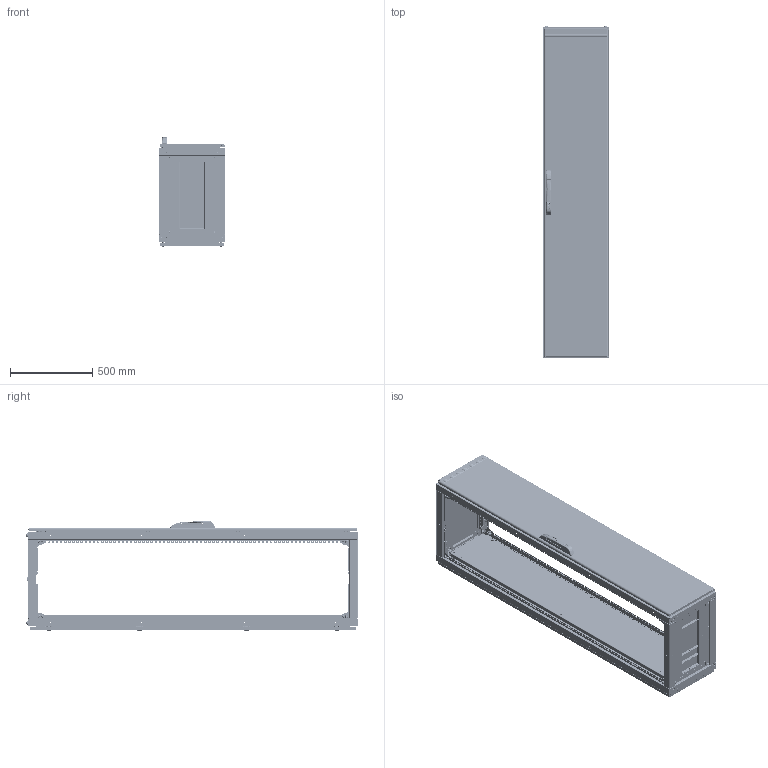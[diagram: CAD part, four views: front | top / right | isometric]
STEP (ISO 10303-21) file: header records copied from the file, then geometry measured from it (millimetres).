
FILE_DESCRIPTION (( 'STEP AP214' ), '1' );
FILE_NAME ('N200406S - 2000 H X 400 W X 600 D - NEO MODULAR.STEP', '2026-09-30T13:47:00', ( '' ), ( '' ), 'SwSTEP 2.0', 'SolidWorks 2025', '' );
FILE_SCHEMA (( 'AUTOMOTIVE_DESIGN' ));
Length unit declared in the file: millimetre
Products named in the file (99): Base sheet slide part_PP 12.0029 - 400; Teos-Neo MP Sol Braketi; TEOS-NEO MP Right Support Plastic Wedge; TEOS-NEO MP Right Bracket with pin_25mm; A910 3126 330; M8 KAFES SOMUN_m8; countersunk flat head cross recess screw_iso_ISO 7046-1 - M6 x 25 - Z --- 25C; pan cross head_ai0_CR-PHMS 0.19-32x0.625x0.625-N; Front Door Sheet - Neo_PP 16.0081 400x2000; YZE124TKK_1__1_1; N200406S - 2000 H X 400 W X 600 D - NEO MODULAR; kare rondelaVER3 NEO26-12; Body Cover; Teos-Neo MP Sağ Braketi; DİKEY PROFİL VER 1 ACIK PROFİLVER3 NEO26-12_PP 16.0014 H 2000; YZE068T__1_1; 4X8 POP PERÇİN_4X8; Top Cover Sheet_PP 16.0053 400X600 UST KAPAK; NEO Base Width Part_PP 16.0103 400 GENİŞLİK; Horızontal Frame with hole_400; Teos-Neo MP Durdurucu Destek; M6 Plastic Screwholder 2; lande plastic panel_1_1; TEOS-NEO MP Left Support Plastic Wedge; Tekpan Lock Handle_tekpan; pan head cross recess screw_iso121_ISO 7045 - M5 x 10 - Z - 10S; hex nut heavy_am_B18.2.4.6M - Heavy hex nut,  M12 x 1.75 --W-N; Front Slat_400; NEO Base depth Part_PP 16.0096 600; NEO Modular Rear Panel_400x2000; YP1315; 4X8 POP PERÇİN; Plastic Corner- Neo; NEO Mounting plate sled_PP 16.1238-600; YM 1472; TEOS-NEO MP Left Bracket with pin_25mm; derinlik merdivenliVER3 NEO26-12_PP 16.0017   600; NEO Modular Derinlik_600; M8 Kare Somun_m8; MSBR-7_1__1_1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
Assembly tree (262 placements, depth 5):
  N200406S - 2000 H X 400 W X 600 D - NEO MODULAR
    NEO Modular Frame Assembly_400x2000x600
      kasa 2015VER3 NEO26-12_400x2000  x2
        DİKEY PROFİL VER 1 ACIK PROFİLVER3 NEO26-12_PP 16.0014 H 2000
        ust genişlik deliksizVER3 NEO26-19_PP 16.0002 400 GEN.ÜST
        ust genişlik deliksizVER3 NEO26-19_PP 16.0001 400 GEN.ALT
        Kaldırma Kulagi SomunuVER3 NEO26-12_25x25
        hex nut heavy_am_B18.2.4.6M - Heavy hex nut,  M12 x 1.75 --W-N
        MP 0701.0050 M8 SIFIR KAFA PERÇİN SOMUN
      NEO Modular Derinlik_600  x4
        derinlik merdivenliVER3 NEO26-12_PP 16.0017   600
        derinlik iç köşeVER3 NEO26-12_PP 16.0023 600 D İÇ
        epdm contaVER3 NEO26-12
        kare rondela somunuVER3 NEO26-12
        kare rondelaVER3 NEO26-12
        socket head cap screw_am_B18.3.1M - 8 x 1.25 x 20 Hex SHCS -- 20NHX
        curved spring lock washer_din_Spring washer DIN 128 - A8
        4X8 POP PERÇİN
        4X8 POP PERÇİN_4X8
      TEOS-NEO Base sheet metal parts_400x600
        03-Base Sheet U1 04-2012VER3 NEO26-12_PP 12.0039 - 400-75
        Base sheet slide part_PP 12.0029 - 400  x2
        03-Base Sheet U1 04-2012VER3 NEO26-12_PP 12.0034 - 400-200
      NEO Base Width Part_PP 16.0103 400 GENİŞLİK  x2
      pan head cross recess screw_iso121_ISO 7045 - M5 x 10 - Z - 10S  x8
      NEO Base depth Part_PP 16.0096 600  x2
      NEO Mounting plate sled_PP 16.1238-600  x2
      pan head cross recess screw_iso121_ISO 7045 - M5 x 10 - Z --- 10C  x6
      4,6 Diameter plug  x2
    NEO Modular Rear Panel_400x2000
      Rear Panel Sheet - Neo_PP 16.0045 400x2000
      countersunk flat head cross recess screw_iso_ISO 7046-1 - M6 x 25 - Z --- 25C  x8
      MP 14.0007 M6 Plastic Countersink  x8
      ARKA KAPAK BRAKETVER3 NEO26-12  x8
      pan head cross recess screw_iso121_ISO 7045 - M5 x 10 - Z --- 10C  x16
    NEO Modular Top Cover_400x600
      Top Cover Sheet_PP 16.0053 400X600 UST KAPAK
      countersunk flat head cross recess screw_iso_ISO 7046-1 - M6 x 25 - Z --- 25C  x2
      MP 14.0007 M6 Plastic Countersink  x2
      plain washer normal grade a_iso_Washer ISO 7089 - 12  x4
      socket button head screw_iso_ISO 7380 - M12 x 30 - 30C  x4
      Top Cover  3mm Stopper  x4
    TEOS-NEO MP Right Bracket with pin_25mm
      TEOS-NEO MP Right Bracket with pin_Klavuzlu
      TEOS-NEO MP pin
      pan head cross recess screw_iso121_ISO 7045 - M5 x 10 - Z --- 10C  x3
    TEOS-NEO MP Left Bracket with pin_25mm
      TEOS-NEO MP Left Bracket with pin_Klavuzlu
      TEOS-NEO MP pin
      pan head cross recess screw_iso121_ISO 7045 - M5 x 10 - Z --- 10C  x3
    Teos-Neo 3mm MOUNTING PLATE_TEOS MP 400x2000
      Teos - Neo Mounting Plate - 3 mm_400x2000
      MP 11.0195 Mounting Plate M8 Wedge  x2
      socket head cap screw_am_B18.3.1M - 8 x 1.25 x 35 Hex SHCS -- 35NHX  x2
      Teos-Neo Mounting Plate Right Bracket Mounting_Standart Pozisyon
        Teos-Neo MP Sağ Braketi
        pan head cross recess screw_iso121_ISO 7045 - M5 x 10 - Z --- 10C  x2
        M8 KAFES SOMUN_m8
          M8 Somun Kafesi_m8
          M8 Kare Somun_m8
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Bounding box: 400.1 x 2014.6 x 664.99 mm (x, y, z)
Volume: 10355912.6 mm3; surface area: 12355754.3 mm2
Topology: 340 solids, 340 shells, 30156 faces, 81659 edges, 51989 vertices
Faces by surface type: plane 14489, cylinder 11020, cone 2544, torus 1006, bspline 876, sphere 221
Entity records: 340504 total; most frequent: CARTESIAN_POINT 104386, ORIENTED_EDGE 49806, DIRECTION 46056, EDGE_CURVE 24903, VERTEX_POINT 15948, AXIS2_PLACEMENT_3D 15780, VECTOR 14496, LINE 14496
